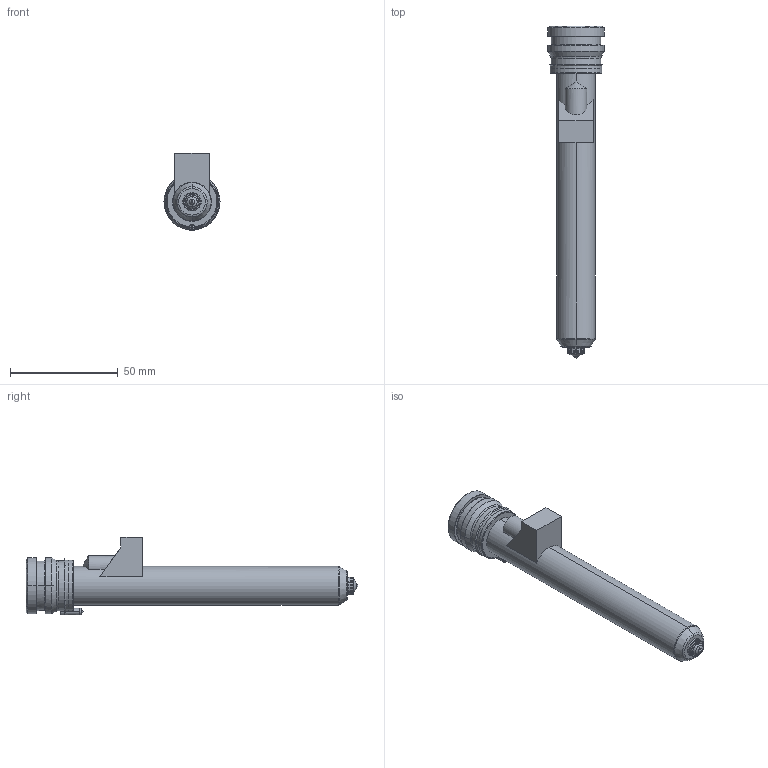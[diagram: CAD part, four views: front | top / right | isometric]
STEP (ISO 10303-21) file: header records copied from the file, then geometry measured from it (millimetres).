
FILE_DESCRIPTION((''),'2;1');
FILE_NAME('TH18136-M-1-PK-JG','2023-12-14T',('umhib'),('Thermoplay S.p.A.'),'PRO/ENGINEER BY PARAMETRIC TECHNOLOGY CORPORATION, 2017170','PRO/ENGINEER BY PARAMETRIC TECHNOLOGY CORPORATION, 2017170','');
FILE_SCHEMA(('CONFIG_CONTROL_DESIGN'));
Length unit declared in the file: millimetre
Products named in the file (1): TH18136-M-1-PK-JG
Bounding box: 26 x 154 x 36.1 mm (x, y, z)
Volume: 31477.3 mm3; surface area: 23841.6 mm2
Topology: 1 solids, 2 shells, 391 faces, 999 edges, 613 vertices
Faces by surface type: cylinder 149, plane 87, cone 62, torus 58, bspline 22, sphere 11, extrusion 2
Entity records: 16790 total; most frequent: CARTESIAN_POINT 5162, DIRECTION 2000, ORIENTED_EDGE 1972, EDGE_CURVE 988, AXIS2_PLACEMENT_3D 806, VERTEX_POINT 613, CIRCLE 438, EDGE_LOOP 414
